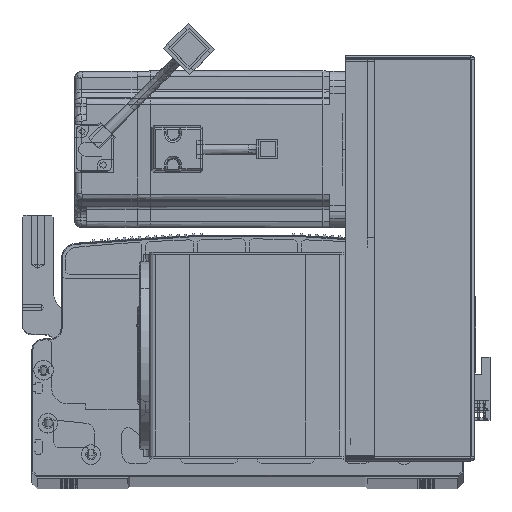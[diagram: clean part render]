
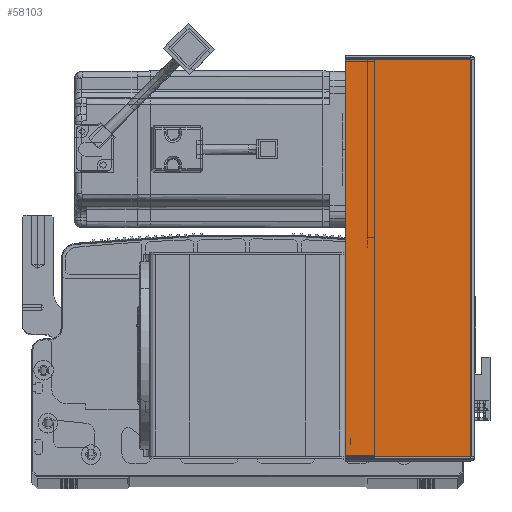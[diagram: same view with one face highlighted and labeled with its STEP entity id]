
A CAD part, top view. The second image highlights one B-rep face of the part: STEP entity #58103.
In plain terms, the highlighted planar face has unit normal (0, 0, 1) as drawn and (0, -1, 0) by its records, which use the part's own axes.
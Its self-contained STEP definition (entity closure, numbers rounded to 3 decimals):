
#6228 = DIRECTION ( 'NONE',  ( 1., 0., 0. ) ) ;
#6276 = ORIENTED_EDGE ( 'NONE', *, *, #61178, .F. ) ;
#6566 = LINE ( 'NONE', #44172, #65500 ) ;
#15151 = CARTESIAN_POINT ( 'NONE',  ( 0.737, -1.5, -203.293 ) ) ;
#16839 = AXIS2_PLACEMENT_3D ( 'NONE', #72655, #59759, #89801 ) ;
#17888 = EDGE_CURVE ( 'NONE', #84533, #45754, #92577, .T. ) ;
#18846 = PLANE ( 'NONE',  #16839 ) ;
#23734 = VERTEX_POINT ( 'NONE', #70731 ) ;
#23926 = VECTOR ( 'NONE', #92029, 1000. ) ;
#26017 = VECTOR ( 'NONE', #6228, 1000. ) ;
#31948 = LINE ( 'NONE', #90307, #26017 ) ;
#34247 = VERTEX_POINT ( 'NONE', #94572 ) ;
#40754 = FACE_OUTER_BOUND ( 'NONE', #88509, .T. ) ;
#41316 = VECTOR ( 'NONE', #83809, 1000. ) ;
#44172 = CARTESIAN_POINT ( 'NONE',  ( 0., -1.5, -203.293 ) ) ;
#45193 = CARTESIAN_POINT ( 'NONE',  ( 0.737, -1.5, 0. ) ) ;
#45754 = VERTEX_POINT ( 'NONE', #74523 ) ;
#48341 = ORIENTED_EDGE ( 'NONE', *, *, #99629, .T. ) ;
#50395 = EDGE_CURVE ( 'NONE', #84533, #34247, #6566, .T. ) ;
#54336 = ORIENTED_EDGE ( 'NONE', *, *, #50395, .T. ) ;
#58103 = ADVANCED_FACE ( 'NONE', ( #40754 ), #18846, .F. ) ;
#59759 = DIRECTION ( 'NONE',  ( 0., 1., 0. ) ) ;
#61178 = EDGE_CURVE ( 'NONE', #45754, #23734, #31948, .T. ) ;
#65500 = VECTOR ( 'NONE', #82925, 1000. ) ;
#68661 = ORIENTED_EDGE ( 'NONE', *, *, #17888, .F. ) ;
#70731 = CARTESIAN_POINT ( 'NONE',  ( 64.5, -1.5, -0.707 ) ) ;
#72655 = CARTESIAN_POINT ( 'NONE',  ( 0., -1.5, 0. ) ) ;
#74523 = CARTESIAN_POINT ( 'NONE',  ( 0.737, -1.5, -0.707 ) ) ;
#82925 = DIRECTION ( 'NONE',  ( 1., 0., 0. ) ) ;
#83809 = DIRECTION ( 'NONE',  ( 0., 0., 1. ) ) ;
#84533 = VERTEX_POINT ( 'NONE', #15151 ) ;
#84818 = CARTESIAN_POINT ( 'NONE',  ( 64.5, -1.5, 0. ) ) ;
#86025 = LINE ( 'NONE', #84818, #41316 ) ;
#88509 = EDGE_LOOP ( 'NONE', ( #68661, #54336, #48341, #6276 ) ) ;
#89801 = DIRECTION ( 'NONE',  ( -1., 0., 0. ) ) ;
#90307 = CARTESIAN_POINT ( 'NONE',  ( 0., -1.5, -0.707 ) ) ;
#92029 = DIRECTION ( 'NONE',  ( 0., 0., 1. ) ) ;
#92577 = LINE ( 'NONE', #45193, #23926 ) ;
#94572 = CARTESIAN_POINT ( 'NONE',  ( 64.5, -1.5, -203.293 ) ) ;
#99629 = EDGE_CURVE ( 'NONE', #34247, #23734, #86025, .T. ) ;
